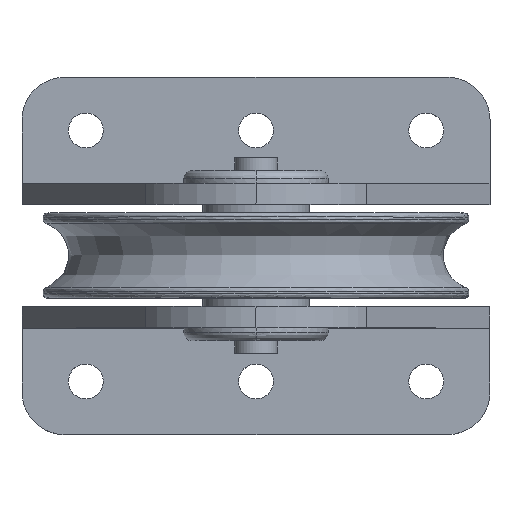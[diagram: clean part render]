
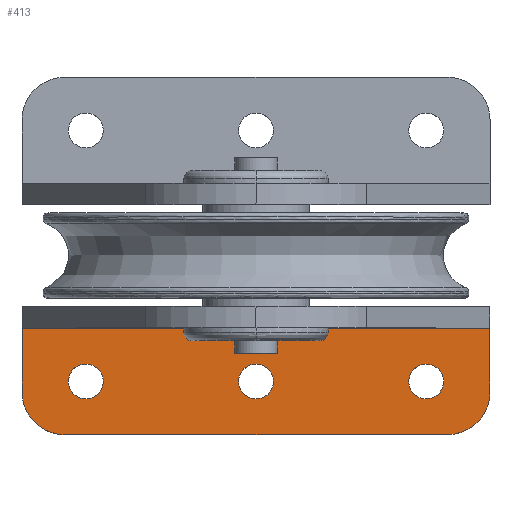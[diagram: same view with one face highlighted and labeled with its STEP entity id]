
A CAD part, top view. The second image highlights one B-rep face of the part: STEP entity #413.
In plain terms, the highlighted free-form (B-spline) face has degree [1, 1] with [2, 2] control points.
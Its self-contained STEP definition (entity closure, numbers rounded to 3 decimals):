
#125=FACE_BOUND($,#863,.T.);
#126=FACE_BOUND($,#864,.T.);
#127=FACE_BOUND($,#865,.T.);
#177=B_SPLINE_SURFACE_WITH_KNOTS($,1,1,((#7523,#7524),(#7525,#7526)),.UNSPECIFIED.,
.F.,.F.,.F.,(2,2),(2,2),(-110.,0.),(-10.,15.),.UNSPECIFIED.);
#413=ADVANCED_FACE($,(#621,#125,#126,#127),#177,.T.);
#621=FACE_OUTER_BOUND($,#862,.T.);
#862=EDGE_LOOP($,(#1727,#1728,#1729,#1730,#1731,#1732));
#863=EDGE_LOOP($,(#1733,#1734));
#864=EDGE_LOOP($,(#1735,#1736));
#865=EDGE_LOOP($,(#1737,#1738));
#1727=ORIENTED_EDGE($,*,*,#2234,.T.);
#1728=ORIENTED_EDGE($,*,*,#2210,.T.);
#1729=ORIENTED_EDGE($,*,*,#2212,.T.);
#1730=ORIENTED_EDGE($,*,*,#2214,.T.);
#1731=ORIENTED_EDGE($,*,*,#2208,.T.);
#1732=ORIENTED_EDGE($,*,*,#2232,.T.);
#1733=ORIENTED_EDGE($,*,*,#2223,.T.);
#1734=ORIENTED_EDGE($,*,*,#2303,.T.);
#1735=ORIENTED_EDGE($,*,*,#2226,.T.);
#1736=ORIENTED_EDGE($,*,*,#2306,.T.);
#1737=ORIENTED_EDGE($,*,*,#2229,.T.);
#1738=ORIENTED_EDGE($,*,*,#2309,.T.);
#2208=EDGE_CURVE($,#2534,#2549,#2946,.T.);
#2210=EDGE_CURVE($,#2535,#2536,#7935,.T.);
#2212=EDGE_CURVE($,#2536,#2537,#2949,.T.);
#2214=EDGE_CURVE($,#2537,#2534,#7936,.T.);
#2223=EDGE_CURVE($,#2543,#2596,#7938,.T.);
#2226=EDGE_CURVE($,#2545,#2598,#7940,.T.);
#2229=EDGE_CURVE($,#2547,#2600,#7942,.T.);
#2232=EDGE_CURVE($,#2549,#2548,#2962,.T.);
#2234=EDGE_CURVE($,#2548,#2535,#2964,.T.);
#2303=EDGE_CURVE($,#2596,#2543,#7966,.T.);
#2306=EDGE_CURVE($,#2598,#2545,#7968,.T.);
#2309=EDGE_CURVE($,#2600,#2547,#7970,.T.);
#2534=VERTEX_POINT($,#7689);
#2535=VERTEX_POINT($,#7690);
#2536=VERTEX_POINT($,#7691);
#2537=VERTEX_POINT($,#7692);
#2543=VERTEX_POINT($,#7698);
#2545=VERTEX_POINT($,#7700);
#2547=VERTEX_POINT($,#7702);
#2548=VERTEX_POINT($,#7703);
#2549=VERTEX_POINT($,#7704);
#2596=VERTEX_POINT($,#7751);
#2598=VERTEX_POINT($,#7753);
#2600=VERTEX_POINT($,#7755);
#2946=B_SPLINE_CURVE_WITH_KNOTS($,1,(#7115,#7116),.UNSPECIFIED.,.F.,.F.,
(2,2),(120.,135.),.UNSPECIFIED.);
#2949=B_SPLINE_CURVE_WITH_KNOTS($,1,(#7124,#7125),.UNSPECIFIED.,.F.,.F.,
(2,2),(10.,100.),.UNSPECIFIED.);
#2962=B_SPLINE_CURVE_WITH_KNOTS($,1,(#7183,#7184),.UNSPECIFIED.,.F.,.F.,
(2,2),(0.,110.),.UNSPECIFIED.);
#2964=B_SPLINE_CURVE_WITH_KNOTS($,1,(#7187,#7188),.UNSPECIFIED.,.F.,.F.,
(2,2),(255.,270.),.UNSPECIFIED.);
#7115=CARTESIAN_POINT($,(110.,10.,5.));
#7116=CARTESIAN_POINT($,(110.,25.,5.));
#7119=CARTESIAN_POINT($,(0.,10.,5.));
#7120=CARTESIAN_POINT($,(0.,0.,5.));
#7121=CARTESIAN_POINT($,(10.,0.,5.));
#7124=CARTESIAN_POINT($,(10.,0.,5.));
#7125=CARTESIAN_POINT($,(100.,0.,5.));
#7128=CARTESIAN_POINT($,(100.,0.,5.));
#7129=CARTESIAN_POINT($,(110.,0.,5.));
#7130=CARTESIAN_POINT($,(110.,10.,5.));
#7150=CARTESIAN_POINT($,(90.9,12.5,5.));
#7151=CARTESIAN_POINT($,(90.9,16.6,5.));
#7152=CARTESIAN_POINT($,(95.,16.6,5.));
#7153=CARTESIAN_POINT($,(99.1,16.6,5.));
#7154=CARTESIAN_POINT($,(99.1,12.5,5.));
#7162=CARTESIAN_POINT($,(59.1,12.5,5.));
#7163=CARTESIAN_POINT($,(59.1,8.4,5.));
#7164=CARTESIAN_POINT($,(55.,8.4,5.));
#7165=CARTESIAN_POINT($,(50.9,8.4,5.));
#7166=CARTESIAN_POINT($,(50.9,12.5,5.));
#7174=CARTESIAN_POINT($,(19.1,12.5,5.));
#7175=CARTESIAN_POINT($,(19.1,8.4,5.));
#7176=CARTESIAN_POINT($,(15.,8.4,5.));
#7177=CARTESIAN_POINT($,(10.9,8.4,5.));
#7178=CARTESIAN_POINT($,(10.9,12.5,5.));
#7183=CARTESIAN_POINT($,(110.,25.,5.));
#7184=CARTESIAN_POINT($,(0.,25.,5.));
#7187=CARTESIAN_POINT($,(0.,25.,5.));
#7188=CARTESIAN_POINT($,(0.,10.,5.));
#7404=CARTESIAN_POINT($,(99.1,12.5,5.));
#7405=CARTESIAN_POINT($,(99.1,8.4,5.));
#7406=CARTESIAN_POINT($,(95.,8.4,5.));
#7407=CARTESIAN_POINT($,(90.9,8.4,5.));
#7408=CARTESIAN_POINT($,(90.9,12.5,5.));
#7416=CARTESIAN_POINT($,(50.9,12.5,5.));
#7417=CARTESIAN_POINT($,(50.9,16.6,5.));
#7418=CARTESIAN_POINT($,(55.,16.6,5.));
#7419=CARTESIAN_POINT($,(59.1,16.6,5.));
#7420=CARTESIAN_POINT($,(59.1,12.5,5.));
#7428=CARTESIAN_POINT($,(10.9,12.5,5.));
#7429=CARTESIAN_POINT($,(10.9,16.6,5.));
#7430=CARTESIAN_POINT($,(15.,16.6,5.));
#7431=CARTESIAN_POINT($,(19.1,16.6,5.));
#7432=CARTESIAN_POINT($,(19.1,12.5,5.));
#7523=CARTESIAN_POINT($,(0.,0.,5.));
#7524=CARTESIAN_POINT($,(0.,25.,5.));
#7525=CARTESIAN_POINT($,(110.,0.,5.));
#7526=CARTESIAN_POINT($,(110.,25.,5.));
#7689=CARTESIAN_POINT($,(110.,10.,5.));
#7690=CARTESIAN_POINT($,(0.,10.,5.));
#7691=CARTESIAN_POINT($,(10.,0.,5.));
#7692=CARTESIAN_POINT($,(100.,0.,5.));
#7698=CARTESIAN_POINT($,(90.9,12.5,5.));
#7700=CARTESIAN_POINT($,(59.1,12.5,5.));
#7702=CARTESIAN_POINT($,(19.1,12.5,5.));
#7703=CARTESIAN_POINT($,(0.,25.,5.));
#7704=CARTESIAN_POINT($,(110.,25.,5.));
#7751=CARTESIAN_POINT($,(99.1,12.5,5.));
#7753=CARTESIAN_POINT($,(50.9,12.5,5.));
#7755=CARTESIAN_POINT($,(10.9,12.5,5.));
#7935=(
BOUNDED_CURVE()
B_SPLINE_CURVE(2,(#7119,#7120,#7121),.UNSPECIFIED.,.F.,.F.)
B_SPLINE_CURVE_WITH_KNOTS((3,3),(-15.708,0.),.UNSPECIFIED.)
CURVE()
GEOMETRIC_REPRESENTATION_ITEM()
RATIONAL_B_SPLINE_CURVE((1.,0.707,1.))
REPRESENTATION_ITEM($)
);
#7936=(
BOUNDED_CURVE()
B_SPLINE_CURVE(2,(#7128,#7129,#7130),.UNSPECIFIED.,.F.,.F.)
B_SPLINE_CURVE_WITH_KNOTS((3,3),(0.,15.708),.UNSPECIFIED.)
CURVE()
GEOMETRIC_REPRESENTATION_ITEM()
RATIONAL_B_SPLINE_CURVE((1.,0.707,1.))
REPRESENTATION_ITEM($)
);
#7938=(
BOUNDED_CURVE()
B_SPLINE_CURVE(2,(#7150,#7151,#7152,#7153,#7154),.UNSPECIFIED.,.F.,.F.)
B_SPLINE_CURVE_WITH_KNOTS((3,2,3),(0.,6.44,12.879),
.UNSPECIFIED.)
CURVE()
GEOMETRIC_REPRESENTATION_ITEM()
RATIONAL_B_SPLINE_CURVE((1.,0.707,1.,0.707,1.))
REPRESENTATION_ITEM($)
);
#7940=(
BOUNDED_CURVE()
B_SPLINE_CURVE(2,(#7162,#7163,#7164,#7165,#7166),.UNSPECIFIED.,.F.,.F.)
B_SPLINE_CURVE_WITH_KNOTS((3,2,3),(0.,6.44,12.879),
.UNSPECIFIED.)
CURVE()
GEOMETRIC_REPRESENTATION_ITEM()
RATIONAL_B_SPLINE_CURVE((1.,0.707,1.,0.707,1.))
REPRESENTATION_ITEM($)
);
#7942=(
BOUNDED_CURVE()
B_SPLINE_CURVE(2,(#7174,#7175,#7176,#7177,#7178),.UNSPECIFIED.,.F.,.F.)
B_SPLINE_CURVE_WITH_KNOTS((3,2,3),(0.,6.44,12.879),
.UNSPECIFIED.)
CURVE()
GEOMETRIC_REPRESENTATION_ITEM()
RATIONAL_B_SPLINE_CURVE((1.,0.707,1.,0.707,1.))
REPRESENTATION_ITEM($)
);
#7966=(
BOUNDED_CURVE()
B_SPLINE_CURVE(2,(#7404,#7405,#7406,#7407,#7408),.UNSPECIFIED.,.F.,.F.)
B_SPLINE_CURVE_WITH_KNOTS((3,2,3),(12.879,19.319,25.758),
.UNSPECIFIED.)
CURVE()
GEOMETRIC_REPRESENTATION_ITEM()
RATIONAL_B_SPLINE_CURVE((1.,0.707,1.,0.707,1.))
REPRESENTATION_ITEM($)
);
#7968=(
BOUNDED_CURVE()
B_SPLINE_CURVE(2,(#7416,#7417,#7418,#7419,#7420),.UNSPECIFIED.,.F.,.F.)
B_SPLINE_CURVE_WITH_KNOTS((3,2,3),(12.879,19.319,25.758),
.UNSPECIFIED.)
CURVE()
GEOMETRIC_REPRESENTATION_ITEM()
RATIONAL_B_SPLINE_CURVE((1.,0.707,1.,0.707,1.))
REPRESENTATION_ITEM($)
);
#7970=(
BOUNDED_CURVE()
B_SPLINE_CURVE(2,(#7428,#7429,#7430,#7431,#7432),.UNSPECIFIED.,.F.,.F.)
B_SPLINE_CURVE_WITH_KNOTS((3,2,3),(12.879,19.319,25.758),
.UNSPECIFIED.)
CURVE()
GEOMETRIC_REPRESENTATION_ITEM()
RATIONAL_B_SPLINE_CURVE((1.,0.707,1.,0.707,1.))
REPRESENTATION_ITEM($)
);
